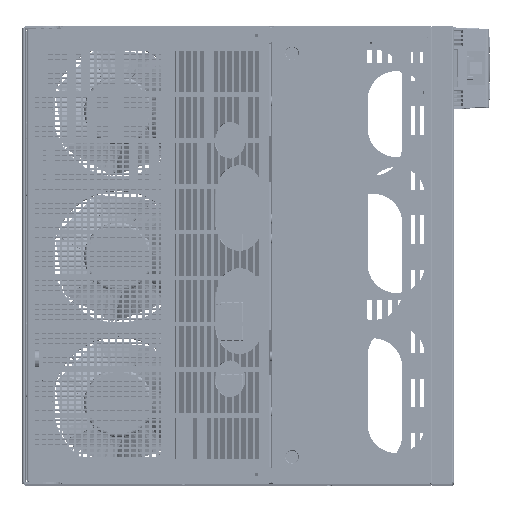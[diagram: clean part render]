
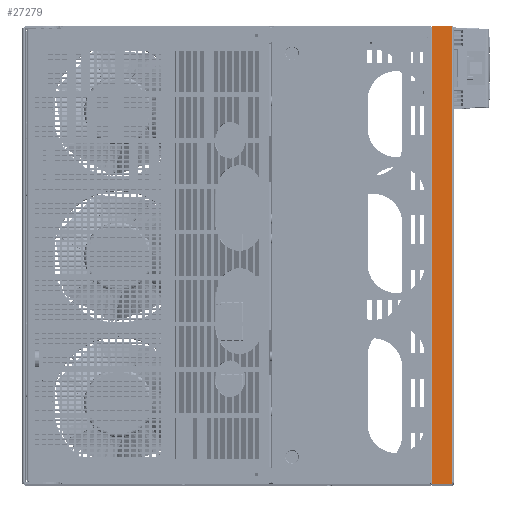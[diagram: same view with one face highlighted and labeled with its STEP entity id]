
A CAD part, top view. The second image highlights one B-rep face of the part: STEP entity #27279.
In plain terms, the highlighted planar face has unit normal (0, 0, 1) as drawn and (0, 1, 0) by its records, which use the part's own axes.
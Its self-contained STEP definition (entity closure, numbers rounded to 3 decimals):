
#27279 = ADVANCED_FACE ( 'NONE', ( #403450 ), #323297, .T. ) ;
#42553 = DIRECTION ( 'NONE',  ( -1., 0., 0. ) ) ;
#45677 = CARTESIAN_POINT ( 'NONE',  ( 200., 85.75, -18.5 ) ) ;
#49935 = CARTESIAN_POINT ( 'NONE',  ( 0., 85.75, -1.7 ) ) ;
#51732 = ORIENTED_EDGE ( 'NONE', *, *, #77944, .T. ) ;
#77944 = EDGE_CURVE ( 'NONE', #420978, #355910, #158104, .T. ) ;
#79524 = CARTESIAN_POINT ( 'NONE',  ( -197.793, 85.75, -1.7 ) ) ;
#87014 = AXIS2_PLACEMENT_3D ( 'NONE', #393974, #103766, #360244 ) ;
#103766 = DIRECTION ( 'NONE',  ( 0., 1., 0. ) ) ;
#106565 = ORIENTED_EDGE ( 'NONE', *, *, #262332, .F. ) ;
#123704 = DIRECTION ( 'NONE',  ( 1., 0., 0. ) ) ;
#134162 = CARTESIAN_POINT ( 'NONE',  ( 197.793, 85.75, -1.7 ) ) ;
#153153 = VECTOR ( 'NONE', #465514, 1000. ) ;
#153794 = VECTOR ( 'NONE', #181808, 1000. ) ;
#156879 = ORIENTED_EDGE ( 'NONE', *, *, #353248, .F. ) ;
#158104 = LINE ( 'NONE', #287320, #450846 ) ;
#167422 = VERTEX_POINT ( 'NONE', #446797 ) ;
#181808 = DIRECTION ( 'NONE',  ( 1., 0., 0. ) ) ;
#182861 = EDGE_CURVE ( 'NONE', #167422, #420978, #421174, .T. ) ;
#194665 = VERTEX_POINT ( 'NONE', #450045 ) ;
#222082 = CARTESIAN_POINT ( 'NONE',  ( -200., 85.75, -1.7 ) ) ;
#255374 = CARTESIAN_POINT ( 'NONE',  ( 200., 85.75, -18.5 ) ) ;
#262332 = EDGE_CURVE ( 'NONE', #194665, #390828, #470372, .T. ) ;
#263606 = VECTOR ( 'NONE', #42553, 1000. ) ;
#278437 = DIRECTION ( 'NONE',  ( 1., 0., 0. ) ) ;
#287320 = CARTESIAN_POINT ( 'NONE',  ( 200., 85.75, -1.7 ) ) ;
#291226 = VECTOR ( 'NONE', #123704, 1000. ) ;
#316431 = EDGE_CURVE ( 'NONE', #194665, #167422, #475079, .T. ) ;
#322008 = ORIENTED_EDGE ( 'NONE', *, *, #182861, .T. ) ;
#323297 = PLANE ( 'NONE',  #87014 ) ;
#323530 = VECTOR ( 'NONE', #278437, 1000. ) ;
#324219 = DIRECTION ( 'NONE',  ( 0., 0., -1. ) ) ;
#339182 = EDGE_LOOP ( 'NONE', ( #455224, #322008, #51732, #156879, #398527, #106565 ) ) ;
#348745 = LINE ( 'NONE', #255374, #153794 ) ;
#353248 = EDGE_CURVE ( 'NONE', #457291, #355910, #348745, .T. ) ;
#355910 = VERTEX_POINT ( 'NONE', #45677 ) ;
#360244 = DIRECTION ( 'NONE',  ( 1., 0., 0. ) ) ;
#390828 = VERTEX_POINT ( 'NONE', #222082 ) ;
#393974 = CARTESIAN_POINT ( 'NONE',  ( 0., 85.75, 0. ) ) ;
#398527 = ORIENTED_EDGE ( 'NONE', *, *, #463752, .F. ) ;
#403450 = FACE_OUTER_BOUND ( 'NONE', #339182, .T. ) ;
#420978 = VERTEX_POINT ( 'NONE', #448008 ) ;
#421174 = LINE ( 'NONE', #134162, #323530 ) ;
#428594 = CARTESIAN_POINT ( 'NONE',  ( -200., 85.75, -1.7 ) ) ;
#441457 = CARTESIAN_POINT ( 'NONE',  ( -200., 85.75, -18.5 ) ) ;
#445919 = LINE ( 'NONE', #428594, #153153 ) ;
#446797 = CARTESIAN_POINT ( 'NONE',  ( 197.793, 85.75, -1.7 ) ) ;
#448008 = CARTESIAN_POINT ( 'NONE',  ( 200., 85.75, -1.7 ) ) ;
#450045 = CARTESIAN_POINT ( 'NONE',  ( -197.793, 85.75, -1.7 ) ) ;
#450846 = VECTOR ( 'NONE', #324219, 1000. ) ;
#455224 = ORIENTED_EDGE ( 'NONE', *, *, #316431, .T. ) ;
#457291 = VERTEX_POINT ( 'NONE', #441457 ) ;
#463752 = EDGE_CURVE ( 'NONE', #390828, #457291, #445919, .T. ) ;
#465514 = DIRECTION ( 'NONE',  ( 0., 0., -1. ) ) ;
#470372 = LINE ( 'NONE', #79524, #263606 ) ;
#475079 = LINE ( 'NONE', #49935, #291226 ) ;
